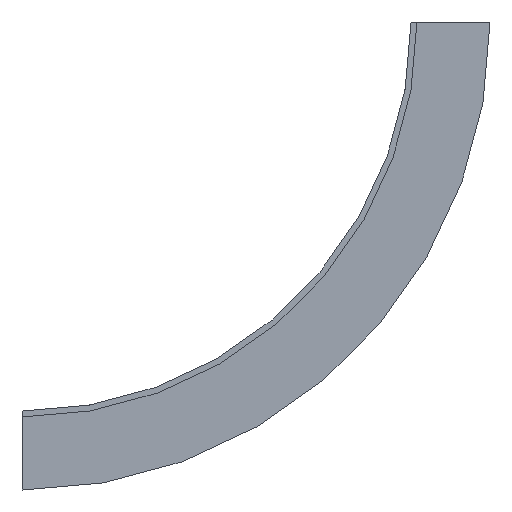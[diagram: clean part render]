
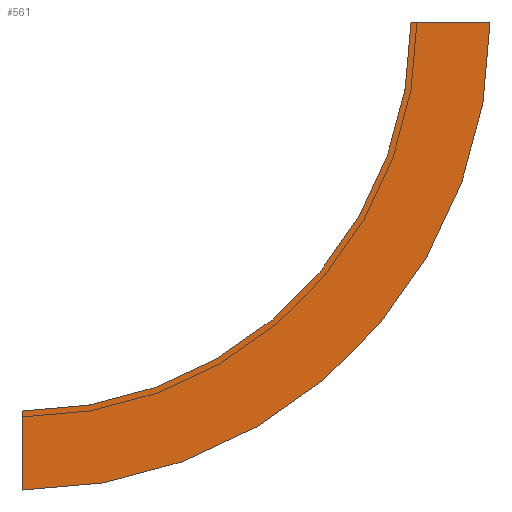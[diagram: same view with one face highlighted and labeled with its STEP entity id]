
A CAD part, left-side view. The second image highlights one B-rep face of the part: STEP entity #561.
In plain terms, the highlighted planar face has unit normal (-1, 0, 0).
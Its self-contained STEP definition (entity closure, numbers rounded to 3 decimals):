
#31 = EDGE_CURVE ( 'NONE', #58, #346, #319, .T. ) ;
#38 = EDGE_CURVE ( 'NONE', #524, #58, #217, .T. ) ;
#41 = CARTESIAN_POINT ( 'NONE',  ( -253.5, 0., 0. ) ) ;
#58 = VERTEX_POINT ( 'NONE', #180 ) ;
#64 = ORIENTED_EDGE ( 'NONE', *, *, #38, .F. ) ;
#80 = EDGE_CURVE ( 'NONE', #200, #524, #177, .T. ) ;
#85 = VECTOR ( 'NONE', #362, 1000. ) ;
#86 = CARTESIAN_POINT ( 'NONE',  ( -253.5, 98.5, 0. ) ) ;
#97 = ORIENTED_EDGE ( 'NONE', *, *, #31, .F. ) ;
#142 = PLANE ( 'NONE',  #199 ) ;
#171 = DIRECTION ( 'NONE',  ( 1., 0., 0. ) ) ;
#174 = DIRECTION ( 'NONE',  ( 0., 0., 1. ) ) ;
#177 = LINE ( 'NONE', #41, #85 ) ;
#180 = CARTESIAN_POINT ( 'NONE',  ( -253.5, 98.5, -118.5 ) ) ;
#198 = CARTESIAN_POINT ( 'NONE',  ( -253.5, 0., 0. ) ) ;
#199 = AXIS2_PLACEMENT_3D ( 'NONE', #86, #565, #332 ) ;
#200 = VERTEX_POINT ( 'NONE', #198 ) ;
#203 = DIRECTION ( 'NONE',  ( 0., 0., 1. ) ) ;
#217 = CIRCLE ( 'NONE', #297, 118.5 ) ;
#228 = CARTESIAN_POINT ( 'NONE',  ( -253.5, 98.5, -118.5 ) ) ;
#269 = ORIENTED_EDGE ( 'NONE', *, *, #320, .F. ) ;
#271 = VECTOR ( 'NONE', #174, 1000. ) ;
#297 = AXIS2_PLACEMENT_3D ( 'NONE', #587, #171, #357 ) ;
#319 = LINE ( 'NONE', #228, #271 ) ;
#320 = EDGE_CURVE ( 'NONE', #346, #200, #556, .T. ) ;
#332 = DIRECTION ( 'NONE',  ( 0., 0., 1. ) ) ;
#346 = VERTEX_POINT ( 'NONE', #442 ) ;
#352 = CARTESIAN_POINT ( 'NONE',  ( -253.5, -20., 0. ) ) ;
#357 = DIRECTION ( 'NONE',  ( 0., 0., -1. ) ) ;
#362 = DIRECTION ( 'NONE',  ( 0., -1., 0. ) ) ;
#405 = EDGE_LOOP ( 'NONE', ( #97, #64, #475, #269 ) ) ;
#435 = DIRECTION ( 'NONE',  ( -1., 0., 0. ) ) ;
#437 = CARTESIAN_POINT ( 'NONE',  ( -253.5, 98.5, 0. ) ) ;
#442 = CARTESIAN_POINT ( 'NONE',  ( -253.5, 98.5, -98.5 ) ) ;
#449 = AXIS2_PLACEMENT_3D ( 'NONE', #437, #435, #203 ) ;
#463 = FACE_OUTER_BOUND ( 'NONE', #405, .T. ) ;
#475 = ORIENTED_EDGE ( 'NONE', *, *, #80, .F. ) ;
#524 = VERTEX_POINT ( 'NONE', #352 ) ;
#556 = CIRCLE ( 'NONE', #449, 98.5 ) ;
#561 = ADVANCED_FACE ( 'NONE', ( #463 ), #142, .T. ) ;
#565 = DIRECTION ( 'NONE',  ( -1., 0., 0. ) ) ;
#587 = CARTESIAN_POINT ( 'NONE',  ( -253.5, 98.5, 0. ) ) ;
